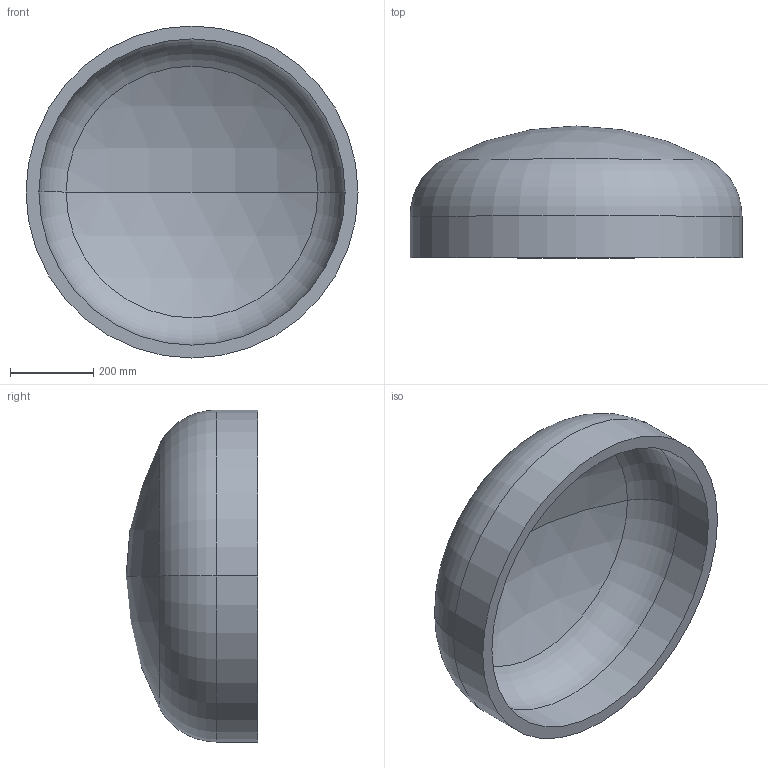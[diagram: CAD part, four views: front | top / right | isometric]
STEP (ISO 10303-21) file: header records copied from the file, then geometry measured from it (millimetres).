
FILE_DESCRIPTION (( 'STEP AP203' ), '1' );
FILE_NAME ('DIN 28013 Korbbogenform_-_Boden DIN 28013 - 800 x 100 - I - s=31.step', '2016-07-01T08:15:17', ( '' ), ( '' ), 'SwSTEP 2.0', 'SolidWorks 2013', '' );
FILE_SCHEMA (( 'CONFIG_CONTROL_DESIGN' ));
Length unit declared in the file: millimetre
Products named in the file (1): DIN 28013 Korbbogenform_-_Boden DIN 28013 - 800 x 100 - I - s=31
Bounding box: 800 x 317.47 x 800 mm (x, y, z)
Volume: 28073413.3 mm3; surface area: 1888092.7 mm2
Topology: 1 solids, 1 shells, 13 faces, 24 edges, 14 vertices
Faces by surface type: torus 4, cylinder 4, sphere 4, plane 1
Entity records: 407 total; most frequent: DIRECTION 72, CARTESIAN_POINT 52, ORIENTED_EDGE 48, AXIS2_PLACEMENT_3D 34, EDGE_CURVE 24, CIRCLE 20, EDGE_LOOP 14, VERTEX_POINT 14
